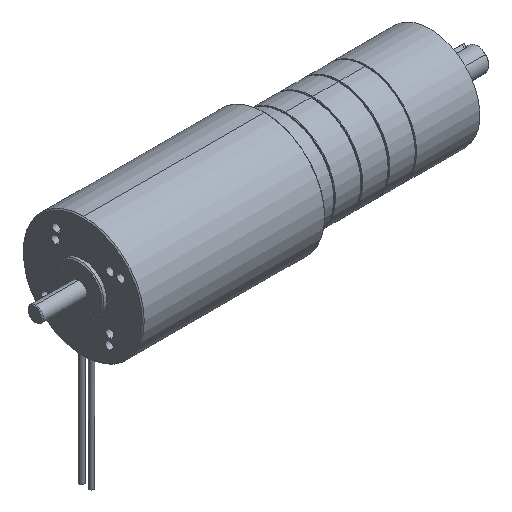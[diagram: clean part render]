
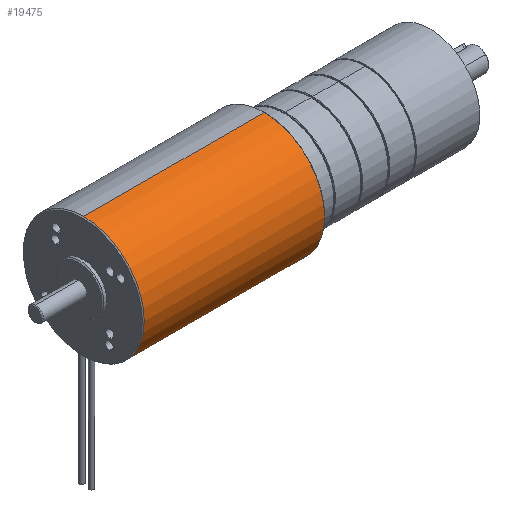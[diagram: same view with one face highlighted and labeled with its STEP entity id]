
A CAD part, isometric view. The second image highlights one B-rep face of the part: STEP entity #19475.
In plain terms, the highlighted cylindrical face has radius 31.5 mm (diameter 63 mm), a partial arc.
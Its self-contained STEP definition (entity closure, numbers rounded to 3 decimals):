
#517 = CARTESIAN_POINT ( 'NONE',  ( 25.5, 0., 31.5 ) ) ;
#2339 = CARTESIAN_POINT ( 'NONE',  ( 27.164, -3.75, -31.276 ) ) ;
#3660 = CARTESIAN_POINT ( 'NONE',  ( 27.762, -3.494, -31.306 ) ) ;
#3863 = CARTESIAN_POINT ( 'NONE',  ( 25.814, -2.098, -31.43 ) ) ;
#3935 = CARTESIAN_POINT ( 'NONE',  ( 26.671, -3.717, -31.28 ) ) ;
#4115 = LINE ( 'NONE', #29860, #30146 ) ;
#6831 = CARTESIAN_POINT ( 'NONE',  ( 119.5, 0., -31.5 ) ) ;
#7078 = DIRECTION ( 'NONE',  ( -1., 0., 0. ) ) ;
#7939 = CARTESIAN_POINT ( 'NONE',  ( 27.942, -1.674, -31.456 ) ) ;
#8207 = CARTESIAN_POINT ( 'NONE',  ( 25.907, -1.871, -31.445 ) ) ;
#8561 = CARTESIAN_POINT ( 'NONE',  ( 27.554, -3.623, -31.291 ) ) ;
#8786 = DIRECTION ( 'NONE',  ( 1., 0., 0. ) ) ;
#9100 = ORIENTED_EDGE ( 'NONE', *, *, #39804, .T. ) ;
#9304 = EDGE_LOOP ( 'NONE', ( #10586, #9100 ) ) ;
#9634 = EDGE_CURVE ( 'NONE', #41881, #18171, #4115, .T. ) ;
#10458 = FACE_OUTER_BOUND ( 'NONE', #15324, .T. ) ;
#10586 = ORIENTED_EDGE ( 'NONE', *, *, #26345, .T. ) ;
#10989 = CARTESIAN_POINT ( 'NONE',  ( 27.999, -3.268, -31.33 ) ) ;
#12432 = CARTESIAN_POINT ( 'NONE',  ( 28.25, -2.5, -31.401 ) ) ;
#12900 = CARTESIAN_POINT ( 'NONE',  ( 27.327, -3.718, -31.28 ) ) ;
#13738 = CIRCLE ( 'NONE', #21133, 31.5 ) ;
#14504 = CYLINDRICAL_SURFACE ( 'NONE', #17663, 31.5 ) ;
#14875 = CARTESIAN_POINT ( 'NONE',  ( 28.25, -2.5, -31.401 ) ) ;
#15324 = EDGE_LOOP ( 'NONE', ( #29638, #32787, #20586, #31122 ) ) ;
#16960 = CARTESIAN_POINT ( 'NONE',  ( 28.25, -2.665, -31.387 ) ) ;
#17240 = CARTESIAN_POINT ( 'NONE',  ( 26., -3.267, -31.33 ) ) ;
#17454 = CARTESIAN_POINT ( 'NONE',  ( 25.999, -1.733, -31.452 ) ) ;
#17663 = AXIS2_PLACEMENT_3D ( 'NONE', #26901, #49961, #18852 ) ;
#18171 = VERTEX_POINT ( 'NONE', #49801 ) ;
#18852 = DIRECTION ( 'NONE',  ( 0., 0., 1. ) ) ;
#19475 = ADVANCED_FACE ( 'NONE', ( #10458, #22866 ), #14504, .T. ) ;
#19917 = CARTESIAN_POINT ( 'NONE',  ( 27.626, -3.585, -31.295 ) ) ;
#19949 = CARTESIAN_POINT ( 'NONE',  ( -195.728, 0., 31.5 ) ) ;
#19999 = VERTEX_POINT ( 'NONE', #24160 ) ;
#20358 = DIRECTION ( 'NONE',  ( 0., 0., 1. ) ) ;
#20586 = ORIENTED_EDGE ( 'NONE', *, *, #40803, .T. ) ;
#20995 = CARTESIAN_POINT ( 'NONE',  ( 25.783, -2.827, -31.373 ) ) ;
#21133 = AXIS2_PLACEMENT_3D ( 'NONE', #43864, #8786, #53178 ) ;
#21277 = CARTESIAN_POINT ( 'NONE',  ( 27.826, -3.441, -31.312 ) ) ;
#21478 = CARTESIAN_POINT ( 'NONE',  ( 27.164, -1.25, -31.475 ) ) ;
#22866 = FACE_BOUND ( 'NONE', #9304, .T. ) ;
#24160 = CARTESIAN_POINT ( 'NONE',  ( 25.75, -2.5, -31.401 ) ) ;
#24656 = VERTEX_POINT ( 'NONE', #51220 ) ;
#25128 = LINE ( 'NONE', #19949, #31668 ) ;
#25317 = CARTESIAN_POINT ( 'NONE',  ( 25.75, -2.663, -31.388 ) ) ;
#26085 = CARTESIAN_POINT ( 'NONE',  ( 25.75, -2.5, -31.401 ) ) ;
#26345 = EDGE_CURVE ( 'NONE', #29707, #19999, #35294, .T. ) ;
#26901 = CARTESIAN_POINT ( 'NONE',  ( -195.728, 0., 0. ) ) ;
#26993 = CIRCLE ( 'NONE', #41873, 31.5 ) ;
#29505 = DIRECTION ( 'NONE',  ( -1., 0., 0. ) ) ;
#29607 = CARTESIAN_POINT ( 'NONE',  ( 27.769, -1.501, -31.464 ) ) ;
#29638 = ORIENTED_EDGE ( 'NONE', *, *, #9634, .F. ) ;
#29707 = VERTEX_POINT ( 'NONE', #12432 ) ;
#29860 = CARTESIAN_POINT ( 'NONE',  ( -195.728, 0., -31.5 ) ) ;
#30146 = VECTOR ( 'NONE', #34794, 1000. ) ;
#30172 = CARTESIAN_POINT ( 'NONE',  ( 27.629, -1.408, -31.469 ) ) ;
#30457 = CARTESIAN_POINT ( 'NONE',  ( 25.79, -2.176, -31.425 ) ) ;
#30534 = CARTESIAN_POINT ( 'NONE',  ( 26.23, -3.498, -31.305 ) ) ;
#30741 = CARTESIAN_POINT ( 'NONE',  ( 26.837, -1.25, -31.475 ) ) ;
#31122 = ORIENTED_EDGE ( 'NONE', *, *, #44927, .T. ) ;
#31668 = VECTOR ( 'NONE', #29505, 1000. ) ;
#32551 = CARTESIAN_POINT ( 'NONE',  ( 28.124, -1.946, -31.44 ) ) ;
#32787 = ORIENTED_EDGE ( 'NONE', *, *, #37372, .T. ) ;
#33416 = CARTESIAN_POINT ( 'NONE',  ( 28.25, -2.335, -31.414 ) ) ;
#34615 = CARTESIAN_POINT ( 'NONE',  ( 28.25, -2.5, -31.401 ) ) ;
#34794 = DIRECTION ( 'NONE',  ( -1., 0., 0. ) ) ;
#35294 = B_SPLINE_CURVE_WITH_KNOTS ( 'NONE', 3,
 ( #14875, #33416, #37178, #32551, #51194, #50327, #7939, #29607, #30172, #47981, #21478, #30741, #52612, #48557, #48262, #17454, #8207, #3863, #30457, #47714, #57266, #26085 ),
 .UNSPECIFIED., .F., .F.,
 ( 4, 2, 2, 2, 2, 2, 2, 2, 2, 2, 4 ),
 ( 0., 0., 0.001, 0.001, 0.001, 0.002, 0.002, 0.003, 0.003, 0.004, 0.004 ),
 .UNSPECIFIED. ) ;
#37178 = CARTESIAN_POINT ( 'NONE',  ( 28.218, -2.173, -31.425 ) ) ;
#37372 = EDGE_CURVE ( 'NONE', #41881, #24656, #26993, .T. ) ;
#38714 = CARTESIAN_POINT ( 'NONE',  ( 26.834, -3.75, -31.276 ) ) ;
#38978 = CARTESIAN_POINT ( 'NONE',  ( 28.217, -2.829, -31.373 ) ) ;
#39252 = CARTESIAN_POINT ( 'NONE',  ( 25.75, -2.5, -31.401 ) ) ;
#39804 = EDGE_CURVE ( 'NONE', #19999, #29707, #45539, .T. ) ;
#40803 = EDGE_CURVE ( 'NONE', #24656, #48072, #25128, .T. ) ;
#41873 = AXIS2_PLACEMENT_3D ( 'NONE', #42718, #7078, #20358 ) ;
#41881 = VERTEX_POINT ( 'NONE', #6831 ) ;
#42718 = CARTESIAN_POINT ( 'NONE',  ( 119.5, 0., 0. ) ) ;
#43864 = CARTESIAN_POINT ( 'NONE',  ( 25.5, 0., 0. ) ) ;
#44927 = EDGE_CURVE ( 'NONE', #48072, #18171, #13738, .T. ) ;
#45539 = B_SPLINE_CURVE_WITH_KNOTS ( 'NONE', 3,
 ( #39252, #25317, #20995, #52685, #17240, #30534, #48336, #3935, #38714, #2339, #12900, #8561, #19917, #3660, #21277, #10989, #56468, #38978, #16960, #34615 ),
 .UNSPECIFIED., .F., .F.,
 ( 4, 2, 2, 2, 2, 2, 2, 2, 2, 4 ),
 ( 0.004, 0.004, 0.005, 0.005, 0.006, 0.006, 0.007, 0.007, 0.007, 0.008 ),
 .UNSPECIFIED. ) ;
#47714 = CARTESIAN_POINT ( 'NONE',  ( 25.758, -2.336, -31.413 ) ) ;
#47981 = CARTESIAN_POINT ( 'NONE',  ( 27.328, -1.283, -31.474 ) ) ;
#48072 = VERTEX_POINT ( 'NONE', #517 ) ;
#48262 = CARTESIAN_POINT ( 'NONE',  ( 26.232, -1.5, -31.464 ) ) ;
#48336 = CARTESIAN_POINT ( 'NONE',  ( 26.368, -3.591, -31.295 ) ) ;
#48557 = CARTESIAN_POINT ( 'NONE',  ( 26.37, -1.408, -31.469 ) ) ;
#49801 = CARTESIAN_POINT ( 'NONE',  ( 25.5, 0., -31.5 ) ) ;
#49961 = DIRECTION ( 'NONE',  ( -1., 0., 0. ) ) ;
#50327 = CARTESIAN_POINT ( 'NONE',  ( 27.995, -1.739, -31.452 ) ) ;
#51194 = CARTESIAN_POINT ( 'NONE',  ( 28.085, -1.875, -31.444 ) ) ;
#51220 = CARTESIAN_POINT ( 'NONE',  ( 119.5, 0., 31.5 ) ) ;
#52612 = CARTESIAN_POINT ( 'NONE',  ( 26.673, -1.282, -31.474 ) ) ;
#52685 = CARTESIAN_POINT ( 'NONE',  ( 25.907, -3.128, -31.345 ) ) ;
#53178 = DIRECTION ( 'NONE',  ( 0., 0., -1. ) ) ;
#56468 = CARTESIAN_POINT ( 'NONE',  ( 28.092, -3.129, -31.345 ) ) ;
#57266 = CARTESIAN_POINT ( 'NONE',  ( 25.75, -2.419, -31.407 ) ) ;
